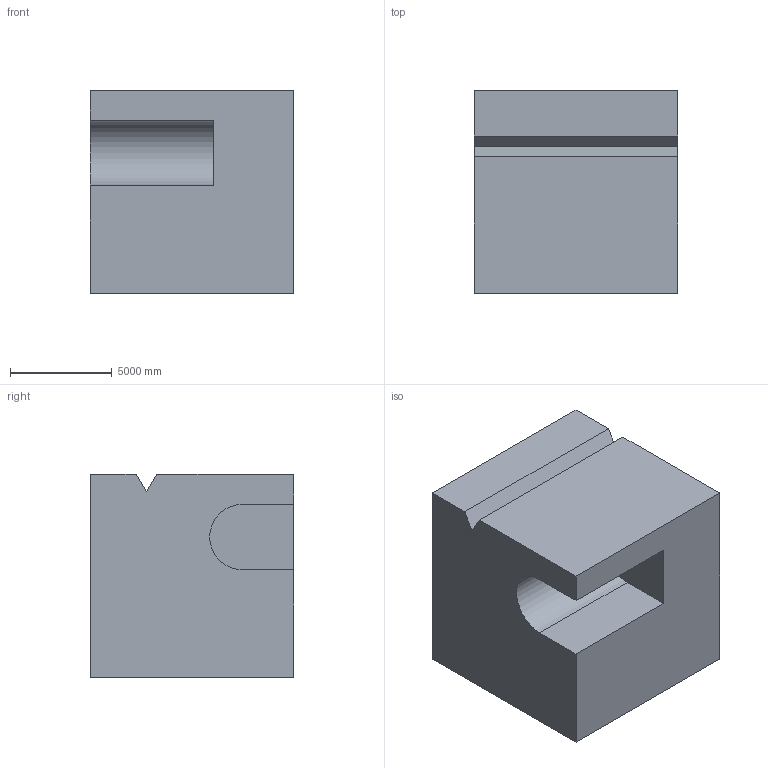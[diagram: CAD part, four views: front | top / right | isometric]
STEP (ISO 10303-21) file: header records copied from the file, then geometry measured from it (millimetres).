
FILE_DESCRIPTION (( 'STEP AP203' ), '1' );
FILE_NAME ('237.STEP', '2022-09-07T12:23:40', ( 'user' ), ( '' ), 'SwSTEP 2.0', 'SolidWorks 2021', '' );
FILE_SCHEMA (( 'CONFIG_CONTROL_DESIGN' ));
Length unit declared in the file: centimetre
Products named in the file (1): 237
Bounding box: 10000 x 10000 x 10000 mm (x, y, z)
Volume: 921597204602 mm3; surface area: 650955703.8 mm2
Topology: 1 solids, 1 shells, 13 faces, 33 edges, 22 vertices
Faces by surface type: plane 12, cylinder 1
Entity records: 466 total; most frequent: CARTESIAN_POINT 69, ORIENTED_EDGE 66, DIRECTION 63, EDGE_CURVE 33, LINE 31, VECTOR 31, VERTEX_POINT 22, AXIS2_PLACEMENT_3D 16
